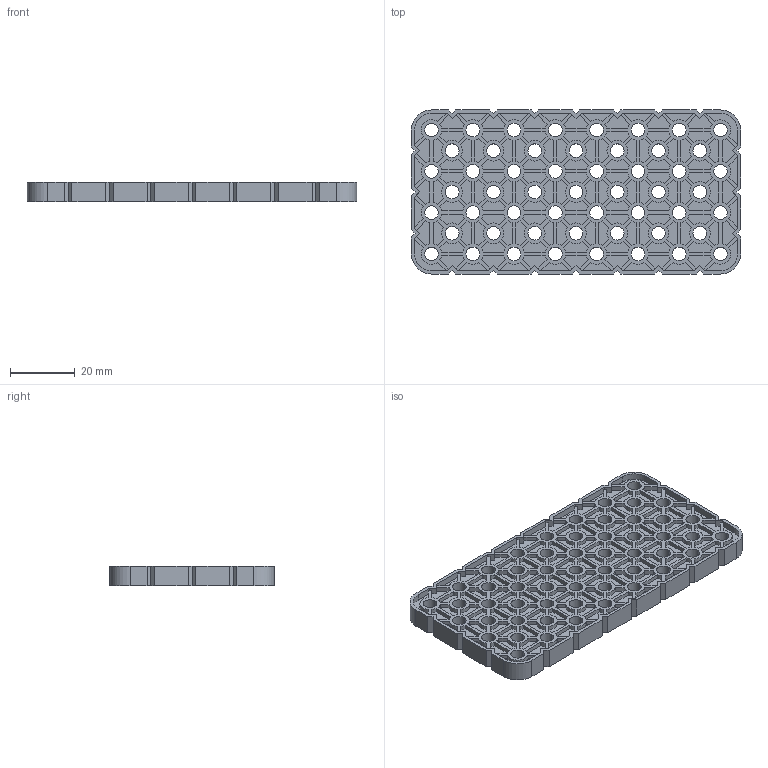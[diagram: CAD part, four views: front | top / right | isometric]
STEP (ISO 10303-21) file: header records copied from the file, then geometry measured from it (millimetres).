
FILE_DESCRIPTION (( 'STEP AP214' ), '1' );
FILE_NAME ('228-2500-043.STEP', '2021-02-18T19:48:17', ( '' ), ( '' ), 'SwSTEP 2.0', 'SolidWorks 2019', '' );
FILE_SCHEMA (( 'AUTOMOTIVE_DESIGN' ));
Length unit declared in the file: millimetre
Products named in the file (1): 228-2500-043
Bounding box: 101.3 x 50.5 x 6.1 mm (x, y, z)
Volume: 14179.9 mm3; surface area: 20504.1 mm2
Topology: 1 solids, 1 shells, 1940 faces, 5304 edges, 3536 vertices
Faces by surface type: plane 1148, cylinder 792
Entity records: 61898 total; most frequent: CARTESIAN_POINT 10781, DIRECTION 10770, ORIENTED_EDGE 10608, EDGE_CURVE 5304, VECTOR 3720, LINE 3720, VERTEX_POINT 3536, AXIS2_PLACEMENT_3D 3525
